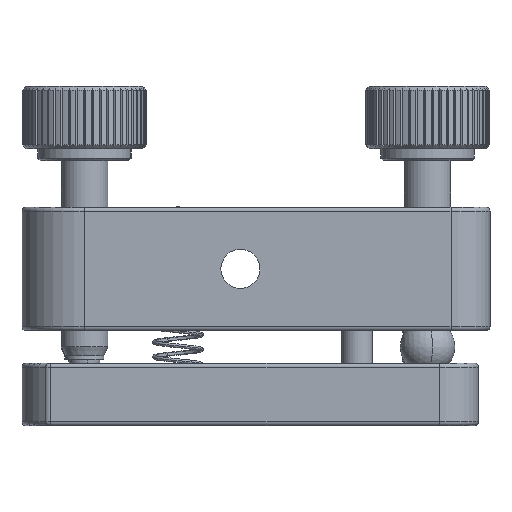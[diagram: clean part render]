
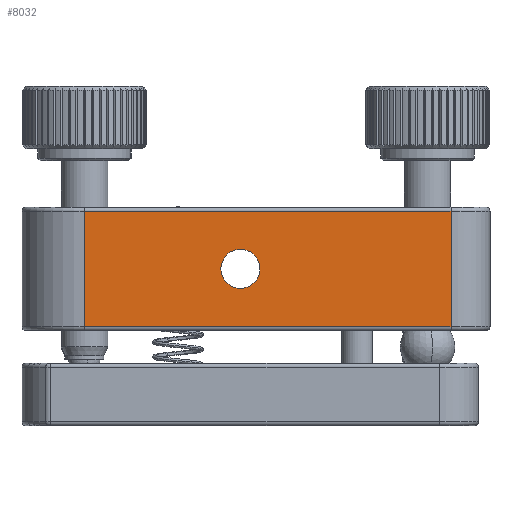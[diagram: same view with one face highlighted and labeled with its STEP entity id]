
A CAD part, front view. The second image highlights one B-rep face of the part: STEP entity #8032.
In plain terms, the highlighted planar face has unit normal (0, -1, 0).
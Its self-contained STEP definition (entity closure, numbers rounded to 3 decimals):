
#387 = CARTESIAN_POINT ( 'NONE',  ( 59.542, 16.393, -105.807 ) ) ;
#730 = LINE ( 'NONE', #11342, #20757 ) ;
#797 = CARTESIAN_POINT ( 'NONE',  ( 86.542, 16.393, -115.707 ) ) ;
#1256 = EDGE_CURVE ( 'NONE', #16001, #20257, #25527, .T. ) ;
#1317 = CARTESIAN_POINT ( 'NONE',  ( 59.542, 16.393, -110.807 ) ) ;
#1739 = CARTESIAN_POINT ( 'NONE',  ( 59.542, 16.393, -115.707 ) ) ;
#2040 = FACE_OUTER_BOUND ( 'NONE', #3106, .T. ) ;
#3106 = EDGE_LOOP ( 'NONE', ( #33426, #14945, #14528, #9563 ) ) ;
#4210 = AXIS2_PLACEMENT_3D ( 'NONE', #17594, #28151, #4372 ) ;
#4372 = DIRECTION ( 'NONE',  ( 0., 0., -1. ) ) ;
#4592 = EDGE_CURVE ( 'NONE', #11867, #19081, #29663, .T. ) ;
#5677 = EDGE_CURVE ( 'NONE', #5914, #8373, #19194, .T. ) ;
#5719 = VECTOR ( 'NONE', #12358, 1000. ) ;
#5892 = CARTESIAN_POINT ( 'NONE',  ( 39.542, 16.393, -100.907 ) ) ;
#5914 = VERTEX_POINT ( 'NONE', #387 ) ;
#6558 = DIRECTION ( 'NONE',  ( 0., 0., -1. ) ) ;
#6590 = AXIS2_PLACEMENT_3D ( 'NONE', #23207, #33785, #10039 ) ;
#7155 = CARTESIAN_POINT ( 'NONE',  ( 86.542, 16.393, -100.907 ) ) ;
#8032 = ADVANCED_FACE ( 'NONE', ( #25833, #2040 ), #12646, .F. ) ;
#8373 = VERTEX_POINT ( 'NONE', #1317 ) ;
#8792 = CIRCLE ( 'NONE', #28170, 2.5 ) ;
#9406 = CARTESIAN_POINT ( 'NONE',  ( 39.542, 16.393, -100.407 ) ) ;
#9563 = ORIENTED_EDGE ( 'NONE', *, *, #4592, .T. ) ;
#10039 = DIRECTION ( 'NONE',  ( 0., 0., 1. ) ) ;
#11239 = CARTESIAN_POINT ( 'NONE',  ( 39.542, 16.393, -115.707 ) ) ;
#11342 = CARTESIAN_POINT ( 'NONE',  ( 86.542, 16.393, -100.407 ) ) ;
#11867 = VERTEX_POINT ( 'NONE', #7155 ) ;
#11998 = ORIENTED_EDGE ( 'NONE', *, *, #32433, .F. ) ;
#12358 = DIRECTION ( 'NONE',  ( 1., 0., 0. ) ) ;
#12646 = PLANE ( 'NONE',  #6590 ) ;
#14528 = ORIENTED_EDGE ( 'NONE', *, *, #24344, .F. ) ;
#14945 = ORIENTED_EDGE ( 'NONE', *, *, #1256, .T. ) ;
#16001 = VERTEX_POINT ( 'NONE', #11239 ) ;
#16490 = DIRECTION ( 'NONE',  ( -1., 0., 0. ) ) ;
#16979 = ORIENTED_EDGE ( 'NONE', *, *, #5677, .F. ) ;
#17594 = CARTESIAN_POINT ( 'NONE',  ( 59.542, 16.393, -108.307 ) ) ;
#19081 = VERTEX_POINT ( 'NONE', #34329 ) ;
#19194 = CIRCLE ( 'NONE', #4210, 2.5 ) ;
#19767 = CARTESIAN_POINT ( 'NONE',  ( 59.542, 16.393, -108.307 ) ) ;
#19980 = DIRECTION ( 'NONE',  ( 0., 0., -1. ) ) ;
#20257 = VERTEX_POINT ( 'NONE', #797 ) ;
#20757 = VECTOR ( 'NONE', #21923, 1000. ) ;
#21923 = DIRECTION ( 'NONE',  ( 0., 0., -1. ) ) ;
#22791 = VECTOR ( 'NONE', #16490, 1000. ) ;
#23207 = CARTESIAN_POINT ( 'NONE',  ( 59.542, 16.393, -100.407 ) ) ;
#23869 = EDGE_LOOP ( 'NONE', ( #11998, #16979 ) ) ;
#24344 = EDGE_CURVE ( 'NONE', #11867, #20257, #730, .T. ) ;
#25527 = LINE ( 'NONE', #1739, #5719 ) ;
#25833 = FACE_BOUND ( 'NONE', #23869, .T. ) ;
#28151 = DIRECTION ( 'NONE',  ( 0., -1., 0. ) ) ;
#28170 = AXIS2_PLACEMENT_3D ( 'NONE', #19767, #30340, #6558 ) ;
#29663 = LINE ( 'NONE', #5892, #22791 ) ;
#29710 = EDGE_CURVE ( 'NONE', #19081, #16001, #33154, .T. ) ;
#30340 = DIRECTION ( 'NONE',  ( 0., -1., 0. ) ) ;
#32433 = EDGE_CURVE ( 'NONE', #8373, #5914, #8792, .T. ) ;
#33154 = LINE ( 'NONE', #9406, #33941 ) ;
#33426 = ORIENTED_EDGE ( 'NONE', *, *, #29710, .T. ) ;
#33785 = DIRECTION ( 'NONE',  ( 0., 1., 0. ) ) ;
#33941 = VECTOR ( 'NONE', #19980, 1000. ) ;
#34329 = CARTESIAN_POINT ( 'NONE',  ( 39.542, 16.393, -100.907 ) ) ;
